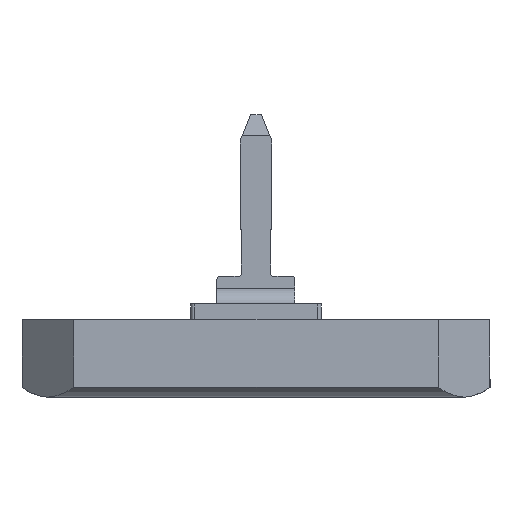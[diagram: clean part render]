
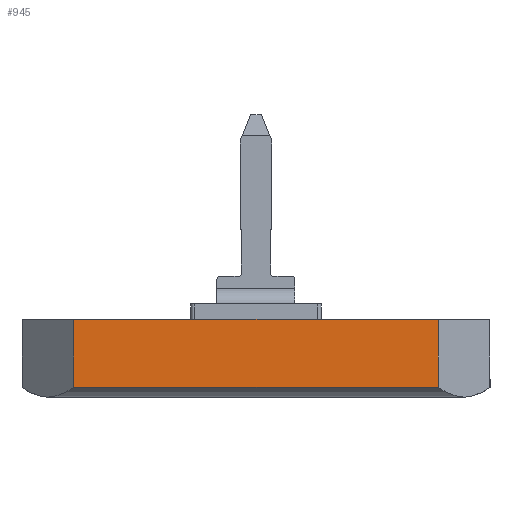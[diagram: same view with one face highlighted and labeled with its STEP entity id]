
A CAD part, left-side view. The second image highlights one B-rep face of the part: STEP entity #945.
In plain terms, the highlighted planar face has unit normal (-1, 0, 0).
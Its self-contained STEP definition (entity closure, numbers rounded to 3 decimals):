
#11 = CARTESIAN_POINT ( 'NONE',  ( 0., -16.002, 2.997 ) ) ;
#119 = DIRECTION ( 'NONE',  ( 0., 0., -1. ) ) ;
#146 = DIRECTION ( 'NONE',  ( 0., -1., 0. ) ) ;
#203 = CARTESIAN_POINT ( 'NONE',  ( 0., -16.002, 0.385 ) ) ;
#212 = CARTESIAN_POINT ( 'NONE',  ( 0., 0., 2.997 ) ) ;
#270 = VECTOR ( 'NONE', #1097, 1000. ) ;
#366 = LINE ( 'NONE', #1340, #649 ) ;
#420 = CARTESIAN_POINT ( 'NONE',  ( 0., -1.981, 0.385 ) ) ;
#466 = EDGE_CURVE ( 'NONE', #1262, #1811, #866, .T. ) ;
#649 = VECTOR ( 'NONE', #146, 1000. ) ;
#684 = EDGE_LOOP ( 'NONE', ( #1887, #2070, #716, #2591 ) ) ;
#716 = ORIENTED_EDGE ( 'NONE', *, *, #2086, .T. ) ;
#819 = LINE ( 'NONE', #11, #270 ) ;
#866 = LINE ( 'NONE', #2314, #2592 ) ;
#920 = CARTESIAN_POINT ( 'NONE',  ( 0., 0., 2.997 ) ) ;
#921 = VERTEX_POINT ( 'NONE', #1929 ) ;
#945 = ADVANCED_FACE ( 'NONE', ( #1569 ), #1126, .F. ) ;
#1097 = DIRECTION ( 'NONE',  ( 0., 0., 1. ) ) ;
#1126 = PLANE ( 'NONE',  #1775 ) ;
#1262 = VERTEX_POINT ( 'NONE', #2616 ) ;
#1329 = DIRECTION ( 'NONE',  ( 0., 1., 0. ) ) ;
#1340 = CARTESIAN_POINT ( 'NONE',  ( 0., 0., 0.385 ) ) ;
#1569 = FACE_OUTER_BOUND ( 'NONE', #684, .T. ) ;
#1727 = DIRECTION ( 'NONE',  ( 1., 0., 0. ) ) ;
#1775 = AXIS2_PLACEMENT_3D ( 'NONE', #920, #1727, #1329 ) ;
#1811 = VERTEX_POINT ( 'NONE', #420 ) ;
#1812 = LINE ( 'NONE', #212, #2411 ) ;
#1887 = ORIENTED_EDGE ( 'NONE', *, *, #466, .T. ) ;
#1913 = VERTEX_POINT ( 'NONE', #203 ) ;
#1919 = EDGE_CURVE ( 'NONE', #1811, #1913, #366, .T. ) ;
#1929 = CARTESIAN_POINT ( 'NONE',  ( 0., -16.002, 2.997 ) ) ;
#2070 = ORIENTED_EDGE ( 'NONE', *, *, #1919, .T. ) ;
#2086 = EDGE_CURVE ( 'NONE', #1913, #921, #819, .T. ) ;
#2299 = DIRECTION ( 'NONE',  ( 0., -1., 0. ) ) ;
#2314 = CARTESIAN_POINT ( 'NONE',  ( 0., -1.981, 2.997 ) ) ;
#2411 = VECTOR ( 'NONE', #2299, 1000. ) ;
#2504 = EDGE_CURVE ( 'NONE', #1262, #921, #1812, .T. ) ;
#2591 = ORIENTED_EDGE ( 'NONE', *, *, #2504, .F. ) ;
#2592 = VECTOR ( 'NONE', #119, 1000. ) ;
#2616 = CARTESIAN_POINT ( 'NONE',  ( 0., -1.981, 2.997 ) ) ;
